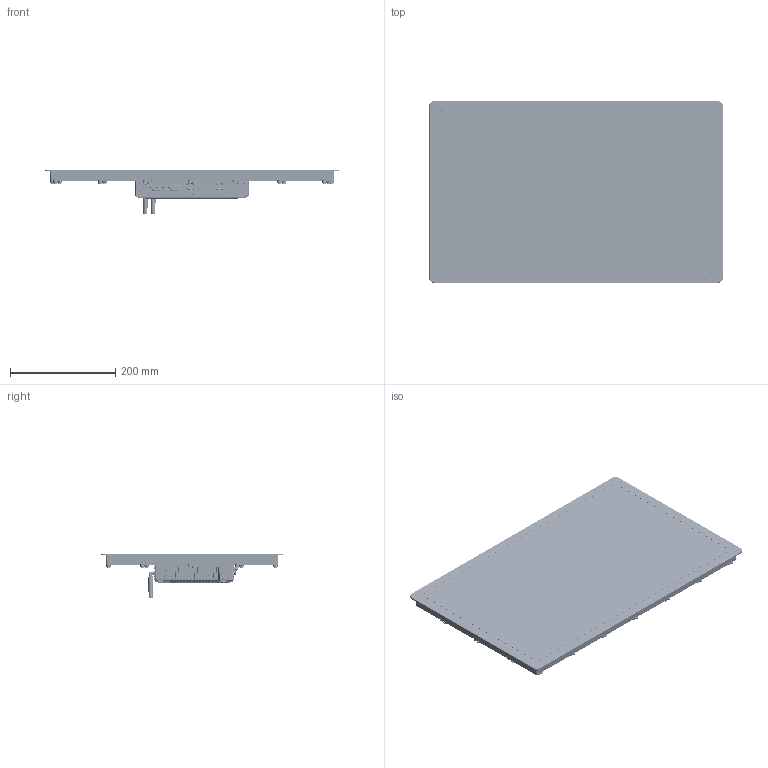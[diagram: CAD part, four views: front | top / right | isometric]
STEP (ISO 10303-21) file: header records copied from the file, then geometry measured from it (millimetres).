
FILE_DESCRIPTION (( 'STEP AP203' ), '1' );
FILE_NAME ('TPC22215-J6400K-8G-128G.STEP', '2026-01-06T01:58:43', ( '' ), ( '' ), 'SwSTEP 2.0', 'SolidWorks 2018', '' );
FILE_SCHEMA (( 'CONFIG_CONTROL_DESIGN' ));
Products named in the file (1): TPC22215-J6400K-8G-128G
Bounding box: 557 x 345 x 85.28 mm (x, y, z)
Surface area: 913159.5 mm2 (no closed solid volume)
Topology: 0 solids, 162 shells, 14915 faces, 37610 edges, 22780 vertices
Faces by surface type: plane 5655, cylinder 5626, bspline 2322, torus 687, cone 379, sphere 246
Entity records: 606098 total; most frequent: CARTESIAN_POINT 282028, ORIENTED_EDGE 73882, DIRECTION 58737, EDGE_CURVE 37014, VERTEX_POINT 22752, AXIS2_PLACEMENT_3D 20575, VECTOR 17587, LINE 17587
